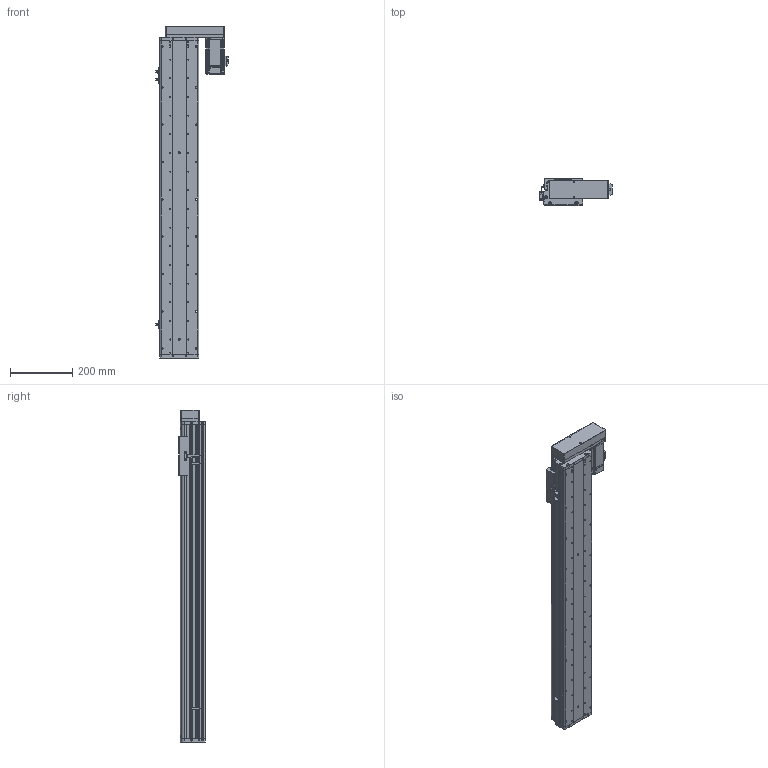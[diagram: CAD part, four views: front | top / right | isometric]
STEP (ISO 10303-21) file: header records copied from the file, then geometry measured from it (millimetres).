
FILE_DESCRIPTION (( 'STEP AP214' ), '1' );
FILE_NAME ('KSD125S-S800-MR-CM.STEP', '2017-10-21T09:02:21', ( '微软用户' ), ( '微软中国' ), 'SwSTEP 2.0', 'SolidWorks 2014', '' );
FILE_SCHEMA (( 'AUTOMOTIVE_DESIGN' ));
Length unit declared in the file: millimetre
Products named in the file (16): U倰嫖萇假蚾璃; U倰嫖萇EEㄜSX672; ヶ傷啣-125遵耀郪; 125-帣傷啣1; KSD125S-S800-MR-CM; HTPA30S3M150_A_H6_a萇儂蚚; HTPA30S3M150_A_H6_a佪裝蚚; 125宽马达安装板连板左右折丝杆; 125悵誘欶酘衵殏; KSD125-賑雄釱1; KSD125S-800俴最佪裝滅鳥裔; KSD125S-800俴最佪裝菁啣; MHMD042G1CA_2_03; 拸萇儂釱滅袉菜; 拸萇儂釱滅袉菜-1; 覜茼え68遵圉猾敕
Assembly tree (19 placements, depth 2):
  KSD125S-S800-MR-CM
    125-帣傷啣1
    ヶ傷啣-125遵耀郪
    U倰嫖萇EEㄜSX672  x3
    U倰嫖萇假蚾璃  x3
    覜茼え68遵圉猾敕
    拸萇儂釱滅袉菜-1
    拸萇儂釱滅袉菜
    MHMD042G1CA_2_03
    KSD125S-800俴最佪裝菁啣
    KSD125S-800俴最佪裝滅鳥裔
    KSD125-賑雄釱1
    125悵誘欶酘衵殏
    125宽马达安装板连板左右折丝杆
    HTPA30S3M150_A_H6_a佪裝蚚
    HTPA30S3M150_A_H6_a萇儂蚚
Bounding box: 234.2 x 86 x 1067.5 mm (x, y, z)
Volume: 3441565 mm3; surface area: 1170773.3 mm2
Topology: 18 solids, 21 shells, 2233 faces, 6477 edges, 4273 vertices
Faces by surface type: cylinder 1406, plane 686, cone 119, bspline 22
Entity records: 78911 total; most frequent: CARTESIAN_POINT 16027, DIRECTION 12315, ORIENTED_EDGE 11462, EDGE_CURVE 5809, AXIS2_PLACEMENT_3D 4767, VERTEX_POINT 3865, VECTOR 2781, LINE 2781
